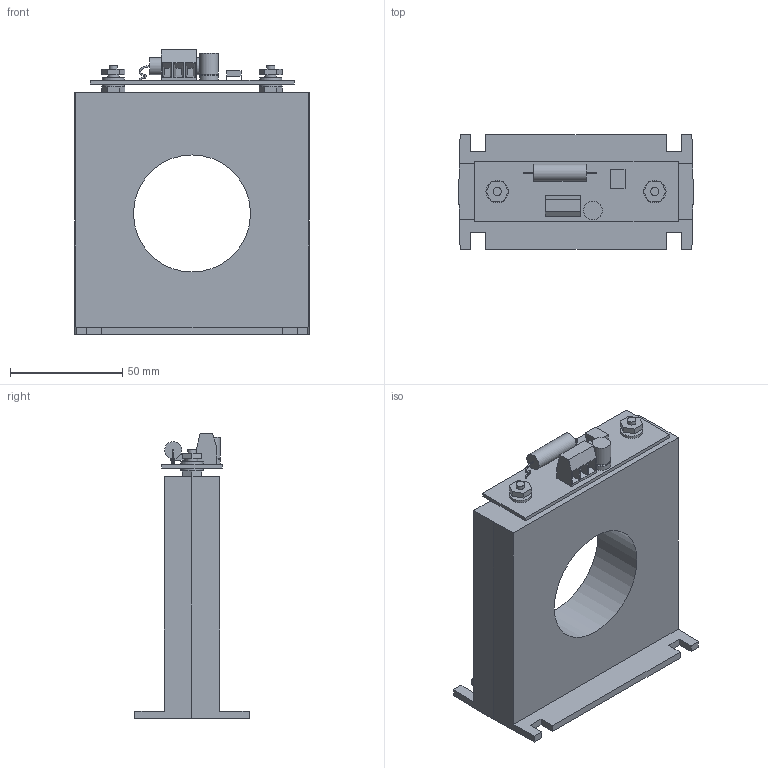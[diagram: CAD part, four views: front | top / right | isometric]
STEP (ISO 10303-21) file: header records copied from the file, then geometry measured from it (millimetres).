
FILE_DESCRIPTION(/* description */ (''),/* implementation_level */ '2;1');
FILE_NAME(/* name */ 'S:\Drawings - Mcs Hardware\MCS-CT\MCS-CT500-750.stp',/* time_stamp */ '2015-09-21T16:51:28-04:00',/* author */ ('Ian L Mitchell'),/* organization */ (''),/* preprocessor_version */ 'ST-DEVELOPER v15.2',/* originating_system */ 'Autodesk Inventor 2014',/* authorisation */ '');
FILE_SCHEMA (('AUTOMOTIVE_DESIGN { 1 0 10303 214 3 1 1 }'));
Length unit declared in the file: inch
Products named in the file (1): MCS-CT500-750
Bounding box: 104.39 x 50.8 x 126.66 mm (x, y, z)
Volume: 239665.3 mm3; surface area: 45722.8 mm2
Topology: 1 solids, 3 shells, 168 faces, 410 edges, 260 vertices
Faces by surface type: plane 145, cylinder 14, bspline 6, torus 3
Full cylindrical faces by diameter (mm): 3.683 x4, 5.08 x2, 7.62 x1, 8.255 x2, 9.906 x4, 52.07 x1
Entity records: 5278 total; most frequent: CARTESIAN_POINT 1389, ORIENTED_EDGE 774, DIRECTION 757, EDGE_CURVE 387, LINE 319, VECTOR 319, VERTEX_POINT 254, AXIS2_PLACEMENT_3D 219
